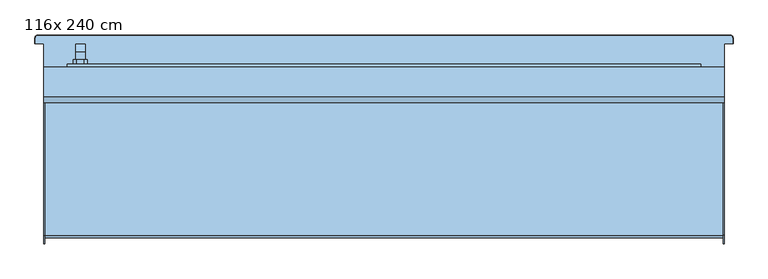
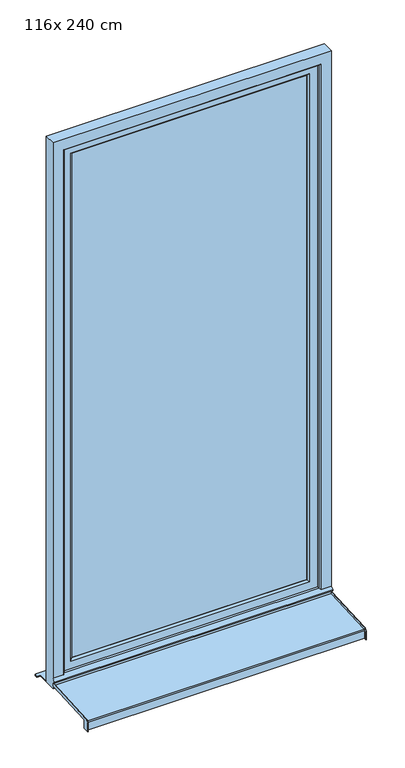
"""IFC4 building model written with IfcOpenShell, lengths in millimetres: window geometry, Fenêtre type 1 : 116x 240 cm."""

import ifcopenshell
import ifcopenshell.guid

model = None  # the IFC model being written
_history = None  # IfcOwnerHistory: only IFC2X3 demands one
_inside = {}  # id of a spatial element -> (the spatial element, [elements in it])
_under = {}  # id of a project, library or spatial element -> (it, [spatial elements below it])
_declared = {}  # id of a project -> (the project, [libraries it declares])
_typed = {}  # id of a type object -> (the type object, [elements of that type])
_made_of = {}  # id of a material, layer set ... -> (it, [elements and type objects made of it])


def new_model(schema):
    """Start an empty IFC model of exactly this schema.

    Asked for "IFC4X3", IfcOpenShell would pick the latest addendum, in which some entities
    have other attributes; the version numbers below select the first issue.
    IFC2X3 requires an IfcOwnerHistory on every rooted entity: one is made here for all.
    """
    global model, _history
    if schema == "IFC4X3":
        model = ifcopenshell.file(schema_version=(4, 3, 0, 0))
    else:
        model = ifcopenshell.file(schema=schema)
    _inside.clear()
    _under.clear()
    _declared.clear()
    _typed.clear()
    _made_of.clear()
    _history = None
    if model.schema == "IFC2X3":
        org = make("IfcOrganization", Name="unknown")
        user = make(
            "IfcPersonAndOrganization",
            ThePerson=make("IfcPerson", FamilyName="unknown"),
            TheOrganization=org,
        )
        app = make(
            "IfcApplication",
            ApplicationDeveloper=org,
            Version="unknown",
            ApplicationFullName="unknown",
            ApplicationIdentifier="unknown",
        )
        _history = make(
            "IfcOwnerHistory",
            OwningUser=user,
            OwningApplication=app,
            ChangeAction="ADDED",
            CreationDate=0,
        )
    return model


def make(cls, **values):
    """One entity of the class cls with the attributes given. An attribute that is None is left unset."""
    return model.create_entity(
        cls, **{name: value for name, value in values.items() if value is not None}
    )


def rooted(cls, **values):
    """An entity with a GlobalId (a new one), such as an element, a storey or a relation."""
    return make(cls, GlobalId=ifcopenshell.guid.new(), OwnerHistory=_history, **values)


def si_unit(unit_type, name, prefix=None):
    """IfcSIUnit, for example si_unit("LENGTHUNIT", "METRE", prefix="MILLI")."""
    return make("IfcSIUnit", UnitType=unit_type, Prefix=prefix, Name=name)


def assignment(units):
    """IfcUnitAssignment: the units of a project."""
    return None if units is None else make("IfcUnitAssignment", Units=units)


def point(xyz):
    """IfcCartesianPoint."""
    return None if xyz is None else make("IfcCartesianPoint", Coordinates=xyz)


def direction(xyz):
    """IfcDirection."""
    return None if xyz is None else make("IfcDirection", DirectionRatios=xyz)


def frame(location, z_axis=None, x_axis=None):
    """IfcAxis2Placement3D, a coordinate frame: its origin and axes. An axis left out is left unset."""
    return make(
        "IfcAxis2Placement3D",
        Location=point(location),
        Axis=direction(z_axis),
        RefDirection=direction(x_axis),
    )


def origin():
    """The frame at (0, 0, 0) with its axes left unset."""
    return frame((0.0, 0.0, 0.0))


def place(relative_to, where):
    """IfcLocalPlacement: puts the frame where relative to a parent placement (None: the world)."""
    return make(
        "IfcLocalPlacement", PlacementRelTo=relative_to, RelativePlacement=where
    )


def context(
    kind, dimensions, precision=None, world=None, true_north=None, identifier=None
):
    """IfcGeometricRepresentationContext, for example the 3D "Model" context."""
    return make(
        "IfcGeometricRepresentationContext",
        ContextIdentifier=identifier,
        ContextType=kind,
        CoordinateSpaceDimension=dimensions,
        Precision=precision,
        WorldCoordinateSystem=world,
        TrueNorth=true_north,
    )


def project(units=None, contexts=None):
    """IfcProject with its units and contexts."""
    return rooted(
        "IfcProject",
        Name="project",
        RepresentationContexts=contexts,
        UnitsInContext=assignment(units),
    )


def spatial(cls, under=None, at=None, **own):
    """A site, building, storey or space (cls), placed at a placement, below another one or the project."""
    s = rooted(cls, ObjectPlacement=at, **own)
    if under is not None:
        _under.setdefault(under.id(), (under, []))[1].append(s)
    return s


def polyline(points):
    """IfcPolyline through the points."""
    return make("IfcPolyline", Points=[point(p) for p in points])


def circle_curve(where, radius):
    """IfcCircle in the frame where."""
    return make("IfcCircle", Position=where, Radius=radius)


def outline(outer, holes=None, kind="AREA"):
    """IfcArbitraryClosedProfileDef: a profile drawn as a closed curve; with holes, ...WithVoids."""
    if holes is None:
        return make("IfcArbitraryClosedProfileDef", ProfileType=kind, OuterCurve=outer)
    return make(
        "IfcArbitraryProfileDefWithVoids",
        ProfileType=kind,
        OuterCurve=outer,
        InnerCurves=holes,
    )


def extrude(swept, where, along, depth):
    """IfcExtrudedAreaSolid: the profile swept, set in the frame where, extruded along a direction by depth."""
    return make(
        "IfcExtrudedAreaSolid",
        SweptArea=swept,
        Position=where,
        ExtrudedDirection=direction(along),
        Depth=depth,
    )


def faces_of(points, faces, orient=None, outer=None):
    """IfcFace entities. A face is a list of loops; a loop is a list of indices into points, from 0.

    orient and outer hold one flag for each loop. By default every Orientation is true, the
    first loop of a face is its IfcFaceOuterBound and the others are IfcFaceBound.
    """
    made = []
    for i, loops in enumerate(faces):
        bounds = []
        for j, loop in enumerate(loops):
            is_outer = j == 0 if outer is None else outer[i][j]
            bounds.append(
                make(
                    "IfcFaceOuterBound" if is_outer else "IfcFaceBound",
                    Bound=make("IfcPolyLoop", Polygon=[points[k] for k in loop]),
                    Orientation=True if orient is None else orient[i][j],
                )
            )
        made.append(make("IfcFace", Bounds=bounds))
    return made


def faceted_brep(points, faces, orient=None, outer=None, voids=None):
    """IfcFacetedBrep: a solid bounded by flat faces; with voids (closed shells), ...WithVoids."""
    shared = [point(p) for p in points]
    hull = make("IfcClosedShell", CfsFaces=faces_of(shared, faces, orient, outer))
    if voids is None:
        return make("IfcFacetedBrep", Outer=hull)
    return make(
        "IfcFacetedBrepWithVoids",
        Outer=hull,
        Voids=[
            make(cls, CfsFaces=faces_of(shared, fs, o, b)) for cls, fs, o, b in voids
        ],
    )


def shape(context_of_items, identifier, shape_type, items):
    """IfcShapeRepresentation: the items that make up one representation, for example the "Body"."""
    return make(
        "IfcShapeRepresentation",
        ContextOfItems=context_of_items,
        RepresentationIdentifier=identifier,
        RepresentationType=shape_type,
        Items=items,
    )


def source(mapping_origin, context_of_items, identifier, shape_type, items):
    """IfcRepresentationMap: a shape defined once, which mapped items show again and again."""
    return make(
        "IfcRepresentationMap",
        MappingOrigin=mapping_origin,
        MappedRepresentation=shape(context_of_items, identifier, shape_type, items),
    )


def transform(
    local_origin,
    x_axis=None,
    y_axis=None,
    z_axis=None,
    scale=None,
    scale2=None,
    scale3=None,
    uniform=True,
):
    """IfcCartesianTransformationOperator3D, or its non-uniform kind. x_axis, y_axis, z_axis: its Axis1, 2, 3."""
    if uniform:
        return make(
            "IfcCartesianTransformationOperator3D",
            Axis1=direction(x_axis),
            Axis2=direction(y_axis),
            LocalOrigin=point(local_origin),
            Scale=scale,
            Axis3=direction(z_axis),
        )
    return make(
        "IfcCartesianTransformationOperator3DnonUniform",
        Axis1=direction(x_axis),
        Axis2=direction(y_axis),
        LocalOrigin=point(local_origin),
        Scale=scale,
        Axis3=direction(z_axis),
        Scale2=scale2,
        Scale3=scale3,
    )


def mapped(mapping_source, mapping_target):
    """IfcMappedItem: shows the shape of a source again, moved by a transform."""
    return make(
        "IfcMappedItem", MappingSource=mapping_source, MappingTarget=mapping_target
    )


def made_of(thing, what):
    """Note that an element or type object is made of a material, layer set ...; save() writes the relation."""
    if what is not None:
        _made_of.setdefault(what.id(), (what, []))[1].append(thing)
    return thing


def element(
    cls,
    number,
    at=None,
    inside=None,
    cuts=None,
    type_object=None,
    material=None,
    context=None,
    identifier="Body",
    shape_type=None,
    held_by="IfcProductDefinitionShape",
    body=None,
    shapes=None,
    **own,
):
    """One element of the class cls, such as IfcWall. Its Tag is "e" and its number.

    at: its placement. inside: the storey or other place that contains it. cuts: it is an
    opening in that element (IfcRelVoidsElement). A single representation is given by context,
    identifier, shape_type and body (its items); several are given by shapes. held_by: the class
    of the entity that holds the representations. save() writes the other relations.
    """
    e = rooted(cls, Tag="e%d" % number, ObjectPlacement=at, **own)
    if body is not None:
        shapes = [shape(context, identifier, shape_type, body)]
    if shapes is not None:
        e.Representation = make(held_by, Representations=shapes)
    if inside is not None:
        _inside.setdefault(inside.id(), (inside, []))[1].append(e)
    if cuts is not None:
        rooted(
            "IfcRelVoidsElement", RelatingBuildingElement=cuts, RelatedOpeningElement=e
        )
    if type_object is not None:
        _typed.setdefault(type_object.id(), (type_object, []))[1].append(e)
    return made_of(e, material)


def aggregate(whole, parts):
    """IfcRelAggregates: a whole, such as a stair, and the parts it consists of."""
    return rooted("IfcRelAggregates", RelatingObject=whole, RelatedObjects=parts)


def save(model, path):
    """Write the relations noted so far, then the file.

    IfcRelAggregates (storeys below a building ...), IfcRelContainedInSpatialStructure (elements
    in a storey), IfcRelDefinesByType, IfcRelAssociatesMaterial and IfcRelDeclares: one each for
    every whole, place, type object, material and project.
    """
    for whole, parts in _under.values():
        aggregate(whole, parts)
    for where, things in _inside.values():
        rooted(
            "IfcRelContainedInSpatialStructure",
            RelatedElements=things,
            RelatingStructure=where,
        )
    for kind, things in _typed.values():
        rooted("IfcRelDefinesByType", RelatedObjects=things, RelatingType=kind)
    for what, things in _made_of.values():
        rooted("IfcRelAssociatesMaterial", RelatedObjects=things, RelatingMaterial=what)
    for by, libraries in _declared.values():
        rooted("IfcRelDeclares", RelatingContext=by, RelatedDefinitions=libraries)
    model.write(path)


def plane_surface(at):
    """IfcPlane: the flat surface through the origin of the frame at, square to its z axis."""
    return make("IfcPlane", Position=at)


def cylinder_surface(at, radius):
    """IfcCylindricalSurface: all points at the distance radius from the z axis of the frame at."""
    return make("IfcCylindricalSurface", Position=at, Radius=radius)


def revolved_surface(curve, axis_point, axis_direction):
    """IfcSurfaceOfRevolution: the curve turned about the line through axis_point along axis_direction."""
    return make(
        "IfcSurfaceOfRevolution",
        SweptCurve=make("IfcArbitraryOpenProfileDef", ProfileType="CURVE", Curve=curve),
        AxisPosition=make("IfcAxis1Placement", Location=point(axis_point), Axis=direction(axis_direction)),
    )


def advanced_brep(points, edges, surfaces, faces):
    """IfcAdvancedBrep: a solid bounded by faces that lie on surfaces and meet in shared edges.

    An edge is (start, end): straight between two places in points (the first is 0);
    or (start, end, curve); or (start, end, curve, False) where it runs against its curve.
    A face is (place in surfaces, loops), or (place, loops, False) where it looks against
    its surface's normal. A loop lists edges by number (the first is 1), with a minus sign
    where the edge is run from its end to its start. The first loop is the outer one.
    """
    corners = [point(p) for p in points]
    vertices = [make("IfcVertexPoint", VertexGeometry=c) for c in corners]
    made = []
    for start, end, *more in edges:
        made.append(
            make(
                "IfcEdgeCurve",
                EdgeStart=vertices[start],
                EdgeEnd=vertices[end],
                EdgeGeometry=more[0] if more else make("IfcPolyline", Points=[corners[start], corners[end]]),
                SameSense=more[1] if len(more) > 1 else True,
            )
        )
    hull = []
    for where, loops, *sense in faces:
        bounds = []
        for j, loop in enumerate(loops):
            ring = [make("IfcOrientedEdge", EdgeElement=made[abs(k) - 1], Orientation=k > 0) for k in loop]
            bounds.append(
                make(
                    "IfcFaceOuterBound" if j == 0 else "IfcFaceBound",
                    Bound=make("IfcEdgeLoop", EdgeList=ring),
                    Orientation=True,
                )
            )
        hull.append(make("IfcAdvancedFace", Bounds=bounds, FaceSurface=surfaces[where], SameSense=sense[0] if sense else True))
    return make("IfcAdvancedBrep", Outer=make("IfcClosedShell", CfsFaces=hull))


def window_116x_240_cm_9ea8152d(model_context):
    return source(origin(), model_context, "Body", "SolidModel", [
        faceted_brep([(-525.5, 123.0, 1306.0), (-525.5, 123.0, 1294.0), (-509.5, 123.0, 1294.0), (-509.5, 123.0, 1306.0), (-509.5, 135.4852814, 1306.0), (-525.5, 135.4852814, 1306.0), (-509.5, 130.5147186, 1294.0), (-509.5, 137.0, 1287.5147186), (-509.5, 137.0, 1287.2282668), (-509.5, 139.7580139, 1208.5355339), (-509.5, 149.0, 1208.5355339), (-509.5, 149.0, 1292.4852814), (-525.5, 130.5147186, 1294.0), (-525.5, 149.0, 1292.4852814), (-525.5, 149.0, 1208.5355339), (-525.5, 139.7580139, 1208.5355339), (-525.5, 137.0099909, 1287.2286157), (-525.5, 137.0, 1287.5147186), (-513.0355339, 149.0, 1205.0), (-513.0355339, 139.8814775, 1205.0), (-521.9644661, 139.8814775, 1205.0), (-521.9644661, 149.0, 1205.0)], [[[0, 1, 2, 3]], [[3, 4, 5, 0]], [[2, 6, 7, 8, 9, 10, 11, 4, 3]], [[1, 12, 6, 2]], [[0, 5, 13, 14, 15, 16, 17, 12, 1]], [[4, 11, 13, 5]], [[6, 12, 17, 7]], [[18, 19, 20, 21]], [[11, 10, 18, 21, 14, 13]], [[17, 16, 8, 7]], [[16, 15, 20, 19, 9, 8]], [[9, 19, 18, 10]], [[14, 21, 20, 15]]]),
        extrude(outline(polyline([(1330.0, -524.5), (1325.0, -529.5), (1275.0, -529.5), (1270.0, -524.5), (1270.0, -510.5), (1275.0, -505.5), (1325.0, -505.5), (1330.0, -510.5), (1330.0, -524.5)])), frame((0.0, 115.0, 0.0), z_axis=(0.0, 1.0, 0.0), x_axis=(0.0, 0.0, 1.0)), (0.0, 0.0, 1.0), 8.0),
        advanced_brep(
        [(-580.0, -165.0, 762.0), (-580.0, -191.5, 762.0), (-580.0, -191.5, 795.1063906), (-580.0, -177.2850393, 810.0858337), (-580.0, 60.0, 822.5214156), (-580.0, 60.0, 811.0056336), (-580.0, -165.0, 799.2138833), (580.0, -165.0, 799.2138833), (580.0, 60.0, 811.0056336), (580.0, 60.0, 822.5214156), (580.0, -177.2850393, 810.0858337), (580.0, -191.5, 795.1063906), (580.0, -191.5, 762.0), (580.0, -165.0, 762.0), (-578.0, 60.0, 822.5214156), (-578.0, 60.0, 812.5076922), (578.0, 60.0, 812.5076922), (578.0, 60.0, 822.5214156), (-578.0, -176.7616798, 800.0995383), (578.0, -176.7616798, 800.0995383), (578.0, -181.5, 795.1063906), (-578.0, -181.5, 795.1063906), (-578.0, -181.5, 762.0), (578.0, -181.5, 762.0), (-578.0, -180.0, 762.0), (578.0, -180.0, 762.0), (578.0, -165.0, 762.0), (578.0, -191.5, 762.0), (-578.0, -191.5, 762.0), (-578.0, -165.0, 762.0), (-578.0, -170.0, 772.0), (578.0, -170.0, 772.0), (-578.0, -171.0606602, 773.0606602), (578.0, -171.0606602, 773.0606602), (-578.0, -180.0, 764.1213203), (578.0, -180.0, 764.1213203), (-578.0, -180.0, 795.0728058), (578.0, -180.0, 795.0728058), (-578.0, -165.0, 799.2138833), (578.0, -165.0, 799.2138833), (578.0, -176.649637, 798.6033517), (-578.0, -176.649637, 798.6033517), (578.0, -191.5, 795.1063906), (578.0, -177.2850393, 810.0858337), (-578.0, -177.2850393, 810.0858337), (-578.0, -191.5, 795.1063906)],
        [
            (0, 1),
            (1, 2),
            (2, 3, circle_curve(frame((-580.0, -176.5, 795.1063906), z_axis=(-1.0, 0.0, 0.0), x_axis=(0.0, -0.05233595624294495, 0.9986295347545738)), 15.0)),
            (3, 4),
            (4, 5),
            (5, 6),
            (6, 0),
            (7, 8),
            (8, 9),
            (9, 10),
            (10, 11, circle_curve(frame((580.0, -176.5, 795.1063906), z_axis=(1.0, 0.0, 0.0), x_axis=(0.0, -1.0, 0.0)), 15.0)),
            (11, 12),
            (12, 13),
            (13, 7),
            (14, 15),
            (15, 16),
            (16, 17),
            (17, 9),
            (8, 5),
            (4, 14),
            (18, 19),
            (19, 16),
            (15, 18),
            (20, 21),
            (21, 22),
            (22, 23),
            (23, 20),
            (24, 25),
            (25, 26),
            (26, 13),
            (12, 27),
            (27, 23),
            (22, 28),
            (28, 1),
            (0, 29),
            (29, 24),
            (30, 31),
            (31, 25),
            (24, 30),
            (32, 33),
            (33, 31),
            (30, 32),
            (34, 35),
            (35, 33),
            (32, 34),
            (36, 37),
            (37, 35),
            (34, 36),
            (38, 6),
            (7, 39),
            (39, 40),
            (40, 41),
            (41, 38),
            (41, 36, circle_curve(frame((-578.0, -176.4646089, 795.0728058), z_axis=(1.0, 0.0, 0.0), x_axis=(0.0, 1.0, 0.0)), 3.5353911)),
            (29, 38),
            (37, 40, circle_curve(frame((578.0, -176.4646089, 795.0728058), z_axis=(-1.0, 0.0, 0.0), x_axis=(0.0, 1.0, 0.0)), 3.5353911)),
            (39, 26),
            (18, 21, circle_curve(frame((-578.0, -176.5, 795.1063906), z_axis=(1.0, 0.0, 0.0), x_axis=(0.0, 1.0, 0.0)), 5.0)),
            (20, 19, circle_curve(frame((578.0, -176.5, 795.1063906), z_axis=(-1.0, 0.0, 0.0), x_axis=(0.0, 1.0, 0.0)), 5.0)),
            (27, 42),
            (42, 43, circle_curve(frame((578.0, -176.5, 795.1063906), z_axis=(-1.0, 0.0, 0.0), x_axis=(0.0, -1.0, 0.0)), 15.0)),
            (43, 17),
            (11, 42),
            (10, 43),
            (14, 44),
            (44, 45, circle_curve(frame((-578.0, -176.5, 795.1063906), z_axis=(1.0, 0.0, 0.0), x_axis=(0.0, -0.05233595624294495, 0.9986295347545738)), 15.0)),
            (45, 28),
            (3, 44),
            (2, 45),
        ],
        [
            plane_surface(frame((-580.0, 60.0, 811.0056336), z_axis=(-1.0, 0.0, 0.0), x_axis=(0.0, 0.0, 1.0))),
            plane_surface(frame((580.0, 60.0, 811.0056336), z_axis=(1.0, 0.0, 0.0), x_axis=(0.0, 0.0, -1.0))),
            plane_surface(frame((-580.0, 60.0, 811.0056336), z_axis=(0.0, 1.0, 0.0), x_axis=(1.0, 0.0, 0.0))),
            plane_surface(frame((-580.0, 60.0, 812.5076922), z_axis=(0.0, -0.05233595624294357, 0.9986295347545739), x_axis=(1.0, 0.0, 0.0))),
            plane_surface(frame((-580.0, -181.5, 795.1063906), z_axis=(0.0, -1.0, 0.0), x_axis=(1.0, 0.0, 0.0))),
            plane_surface(frame((-580.0, -181.5, 762.0), z_axis=(0.0, 0.0, -1.0), x_axis=(1.0, 0.0, 0.0))),
            plane_surface(frame((-580.0, -180.0, 762.0), z_axis=(0.0, 0.7071067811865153, -0.7071067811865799), x_axis=(1.0, 0.0, 0.0))),
            plane_surface(frame((-580.0, -170.0, 772.0), z_axis=(0.0, 0.7071067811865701, 0.707106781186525), x_axis=(1.0, 0.0, 0.0))),
            plane_surface(frame((-580.0, -171.0606602, 773.0606602), z_axis=(0.0, -0.7071067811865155, 0.7071067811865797), x_axis=(1.0, 0.0, 0.0))),
            plane_surface(frame((-580.0, -180.0, 764.1213203), z_axis=(0.0, 1.0, 0.0), x_axis=(1.0, 0.0, 0.0))),
            plane_surface(frame((-580.0, -176.649637, 798.6033517), z_axis=(0.0, 0.052335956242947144, -0.9986295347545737), x_axis=(1.0, 0.0, 0.0))),
            plane_surface(frame((-578.0, -180.0, 798.4277666), z_axis=(1.0, 0.0, 0.0), x_axis=(0.0, 0.9986295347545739, 0.052335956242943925))),
            plane_surface(frame((-580.0, -165.0, 762.0), z_axis=(0.0, 1.0, 0.0), x_axis=(1.0, 0.0, 0.0))),
            plane_surface(frame((578.0, -180.0, 798.4277666), z_axis=(-1.0, 0.0, 0.0), x_axis=(0.0, 0.0, -1.0))),
            plane_surface(frame((578.0, -165.0, 762.0), z_axis=(0.0, 1.0, 0.0), x_axis=(1.0, 0.0, 0.0))),
            cylinder_surface(frame((580.0, -176.5, 795.1063906), z_axis=(-1.0, 0.0, 0.0), x_axis=(0.0, 1.0, 0.0)), 5.0),
            revolved_surface(polyline([(578.0, -172.9292178, 795.0728058), (-578.0, -172.9292178, 795.0728058)]), (580.0, -176.4646089, 795.0728058), (1.0, 0.0, 0.0)),
            plane_surface(frame((578.0, -181.5, 762.0), z_axis=(-1.0, 0.0, 0.0), x_axis=(0.0, 0.0, 1.0))),
            plane_surface(frame((578.0, -191.5, 762.0), z_axis=(0.0, -1.0, 0.0), x_axis=(0.0, 0.0, 1.0))),
            cylinder_surface(frame((580.0, -176.5, 795.1063906), z_axis=(1.0, 0.0, 0.0), x_axis=(0.0, -1.0, 0.0)), 15.0),
            plane_surface(frame((578.0, -177.2850393, 810.0858337), z_axis=(0.0, -0.05233595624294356, 0.9986295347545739), x_axis=(0.0, 0.9986295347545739, 0.05233595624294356))),
            plane_surface(frame((-578.0, 60.0, 822.5214156), z_axis=(1.0, 0.0, 0.0), x_axis=(0.0, 0.9986295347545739, 0.05233595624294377))),
            plane_surface(frame((-580.0, 60.0, 822.5214156), z_axis=(0.0, -0.05233595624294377, 0.9986295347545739), x_axis=(1.0, 0.0, 0.0))),
            cylinder_surface(frame((-580.0, -176.5, 795.1063906), z_axis=(-1.0, 0.0, 0.0), x_axis=(0.0, -0.05233595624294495, 0.9986295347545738)), 15.0),
            plane_surface(frame((-578.0, -191.5, 795.1063906), z_axis=(0.0, -1.0, 0.0), x_axis=(0.0, 0.0, -1.0))),
        ],
        [
            (0, [[1, 2, 3, 4, 5, 6, 7]]),
            (1, [[8, 9, 10, 11, 12, 13, 14]]),
            (2, [[15, 16, 17, 18, -9, 19, -5, 20]]),
            (3, [[21, 22, -16, 23]]),
            (4, [[24, 25, 26, 27]]),
            (5, [[28, 29, 30, -13, 31, 32, -26, 33, 34, -1, 35, 36]]),
            (6, [[37, 38, -28, 39]]),
            (7, [[40, 41, -37, 42]]),
            (8, [[43, 44, -40, 45]]),
            (9, [[46, 47, -43, 48]]),
            (10, [[49, -6, -19, -8, 50, 51, 52, 53]]),
            (11, [[-53, 54, -48, -45, -42, -39, -36, 55]]),
            (12, [[-35, -7, -49, -55]]),
            (13, [[-38, -41, -44, -47, 56, -51, 57, -29]]),
            (14, [[-50, -14, -30, -57]]),
            (15, [[-21, 58, -24, 59]]),
            (16, [[-52, -56, -46, -54]]),
            (17, [[60, 61, 62, -17, -22, -59, -27, -32]]),
            (18, [[-12, 63, -60, -31]]),
            (19, [[64, -61, -63, -11]]),
            (20, [[-10, -18, -62, -64]]),
            (21, [[65, 66, 67, -33, -25, -58, -23, -15]]),
            (22, [[68, -65, -20, -4]]),
            (23, [[69, -66, -68, -3]]),
            (24, [[-34, -67, -69, -2]]),
        ],
    ),
        extrude(outline(polyline([(-490.0, 105.0), (490.0, 105.0), (490.0, 85.0), (-490.0, 85.0), (-490.0, 105.0)])), frame((0.0, 0.0, 890.0), z_axis=(0.0, 0.0, 1.0), x_axis=(1.0, 0.0, 0.0)), (0.0, 0.0, 1.0), 2220.0),
        faceted_brep([(-540.0, 115.0, 840.0), (540.0, 115.0, 840.0), (540.0, 75.0, 840.0), (-540.0, 75.0, 840.0), (540.0, 115.0, 3160.0), (540.0, 75.0, 3160.0), (-540.0, 75.0, 3160.0), (497.0710678, 75.0, 3117.0710678), (497.0710678, 75.0, 882.9289322), (-497.0710678, 75.0, 882.9289322), (-497.0710678, 75.0, 3117.0710678), (-540.0, 115.0, 3160.0), (497.0710678, 115.0, 882.9289322), (497.0710678, 115.0, 3117.0710678), (-497.0710678, 115.0, 3117.0710678), (-497.0710678, 115.0, 882.9289322), (-490.0, 107.9289322, 890.0), (490.0, 107.9289322, 890.0), (490.0, 107.9289322, 3110.0), (490.0, 82.0710678, 890.0), (490.0, 82.0710678, 3110.0), (-490.0, 82.0710678, 890.0), (-490.0, 107.9289322, 3110.0), (-490.0, 82.0710678, 3110.0)], [[[0, 1, 2, 3]], [[1, 4, 5, 2]], [[2, 5, 6, 3], [7, 8, 9, 10]], [[4, 1, 0, 11], [12, 13, 14, 15]], [[16, 17, 12, 15]], [[17, 18, 13, 12]], [[19, 20, 18, 17]], [[9, 8, 19, 21]], [[8, 7, 20, 19]], [[11, 0, 3, 6]], [[22, 16, 15, 14]], [[23, 21, 16, 22]], [[10, 9, 21, 23]], [[21, 19, 17, 16]], [[4, 11, 6, 5]], [[18, 22, 14, 13]], [[7, 10, 23, 20]], [[20, 23, 22, 18]]]),
        faceted_brep([(580.0, 60.0, 800.0), (580.0, 110.0, 800.0), (580.0, 110.0, 3200.0), (580.0, 60.0, 3200.0), (580.0, 60.0, 845.0), (580.0, 50.0, 835.0), (580.0, 50.0, 830.0), (580.0, 60.0, 830.0), (-580.0, 60.0, 830.0), (-580.0, 60.0, 800.0), (-580.0, 50.0, 830.0), (-580.0, 50.0, 835.0), (535.0, 60.0, 845.0), (530.0, 65.0, 850.0), (-530.0, 65.0, 850.0), (-535.0, 60.0, 845.0), (-580.0, 60.0, 845.0), (-580.0, 60.0, 3200.0), (-535.0, 60.0, 3155.0), (535.0, 60.0, 3155.0), (-580.0, 110.0, 800.0), (-580.0, 110.0, 3200.0), (540.0, 110.0, 840.0), (540.0, 110.0, 3160.0), (-540.0, 110.0, 3160.0), (-540.0, 110.0, 840.0), (-540.0, 75.0, 840.0), (540.0, 75.0, 840.0), (-540.0, 75.0, 3160.0), (540.0, 75.0, 3160.0), (530.0, 75.0, 850.0), (530.0, 75.0, 3150.0), (-530.0, 75.0, 3150.0), (-530.0, 75.0, 850.0), (-530.0, 65.0, 3150.0), (530.0, 65.0, 3150.0)], [[[0, 1, 2, 3, 4, 5, 6, 7]], [[7, 8, 9, 0]], [[6, 10, 8, 7]], [[5, 11, 10, 6]], [[5, 4, 12, 13, 14, 15, 16, 11]], [[17, 16, 15, 18, 19, 12, 4, 3]], [[1, 20, 21, 2], [22, 23, 24, 25]], [[0, 9, 20, 1]], [[9, 8, 10, 11, 16, 17, 21, 20]], [[25, 26, 27, 22]], [[26, 25, 24, 28]], [[22, 27, 29, 23]], [[29, 27, 26, 28], [30, 31, 32, 33]], [[33, 14, 13, 30]], [[34, 14, 33, 32]], [[31, 30, 13, 35]], [[35, 13, 12, 19]], [[18, 15, 14, 34]], [[3, 2, 21, 17]], [[28, 24, 23, 29]], [[31, 35, 34, 32]], [[18, 34, 35, 19]]]),
        advanced_brep(
        [(580.0, 150.0, 805.0), (593.9971508, 150.0, 805.0), (593.9971508, 160.0, 805.0), (590.0, 163.9971508, 805.0), (-590.0, 163.9971508, 805.0), (-593.9971508, 160.0, 805.0), (-593.9971508, 150.0, 805.0), (-580.0, 150.0, 805.0), (-580.0, 110.0, 805.0), (580.0, 110.0, 805.0), (-580.0, 150.0, 800.0), (-593.9971508, 150.0, 800.0), (-593.9971508, 160.0, 800.0), (-590.0, 163.9971508, 800.0), (590.0, 163.9971508, 800.0), (593.9971508, 160.0, 800.0), (593.9971508, 150.0, 800.0), (580.0, 150.0, 800.0), (580.0, 110.0, 800.0), (-580.0, 110.0, 800.0), (-595.0, 160.0, 801.0028492), (-595.0, 150.0, 801.0028492), (-595.0, 150.0, 803.9971508), (-595.0, 160.0, 803.9971508), (595.0, 150.0, 801.0028492), (595.0, 150.0, 803.9971508), (595.0, 160.0, 801.0028492), (595.0, 160.0, 803.9971508), (590.0, 165.0, 801.0028492), (-590.0, 165.0, 801.0028492), (-590.0, 165.0, 803.9971508), (590.0, 165.0, 803.9971508)],
        [
            (0, 1),
            (1, 2),
            (2, 3, circle_curve(frame((590.0, 160.0, 805.0), z_axis=(0.0, 0.0, 1.0), x_axis=(0.0, 1.0, 0.0)), 3.9971508)),
            (3, 4),
            (4, 5, circle_curve(frame((-590.0, 160.0, 805.0), z_axis=(0.0, 0.0, 1.0), x_axis=(-1.0, 0.0, 0.0)), 3.9971508)),
            (5, 6),
            (6, 7),
            (7, 8),
            (8, 9),
            (9, 0),
            (10, 11),
            (11, 12),
            (12, 13, circle_curve(frame((-590.0, 160.0, 800.0), z_axis=(0.0, 0.0, -1.0), x_axis=(-1.0, 0.0, 0.0)), 3.9971508)),
            (13, 14),
            (14, 15, circle_curve(frame((590.0, 160.0, 800.0), z_axis=(0.0, 0.0, -1.0), x_axis=(0.0, 1.0, 0.0)), 3.9971508)),
            (15, 16),
            (16, 17),
            (17, 18),
            (18, 19),
            (19, 10),
            (20, 21),
            (21, 22),
            (22, 23),
            (23, 20),
            (6, 22),
            (21, 11),
            (10, 7),
            (19, 8),
            (18, 9),
            (17, 0),
            (16, 24),
            (24, 25),
            (25, 1),
            (24, 26),
            (26, 27),
            (27, 25),
            (28, 29),
            (29, 30),
            (30, 31),
            (31, 28),
            (31, 27, circle_curve(frame((590.0, 160.0, 803.9971508), z_axis=(0.0, 0.0, -1.0), x_axis=(0.0, 1.0, 0.0)), 5.0)),
            (26, 28, circle_curve(frame((590.0, 160.0, 801.0028492), z_axis=(0.0, 0.0, 1.0), x_axis=(0.0, 1.0, 0.0)), 5.0)),
            (23, 30, circle_curve(frame((-590.0, 160.0, 803.9971508), z_axis=(0.0, 0.0, -1.0), x_axis=(0.0, 1.0, 0.0)), 5.0)),
            (29, 20, circle_curve(frame((-590.0, 160.0, 801.0028492), z_axis=(0.0, 0.0, 1.0), x_axis=(0.0, 1.0, 0.0)), 5.0)),
            (5, 23),
            (20, 12),
            (4, 30),
            (29, 13),
            (3, 31),
            (28, 14),
            (2, 27),
            (26, 15),
        ],
        [
            plane_surface(frame((-595.0, 150.0, 805.0), z_axis=(0.0, 0.0, 1.0), x_axis=(0.0, 1.0, 0.0))),
            plane_surface(frame((-595.0, 150.0, 800.0), z_axis=(0.0, 0.0, -1.0), x_axis=(0.0, -1.0, 0.0))),
            plane_surface(frame((-595.0, 160.0, 800.0), z_axis=(-1.0, 0.0, 0.0), x_axis=(0.0, 0.0, 1.0))),
            plane_surface(frame((-595.0, 150.0, 800.0), z_axis=(0.0, -1.0, 0.0), x_axis=(0.0, 0.0, 1.0))),
            plane_surface(frame((-580.0, 150.0, 800.0), z_axis=(-1.0, 0.0, 0.0), x_axis=(0.0, 0.0, 1.0))),
            plane_surface(frame((-580.0, 110.0, 800.0), z_axis=(0.0, -1.0, 0.0), x_axis=(0.0, 0.0, 1.0))),
            plane_surface(frame((580.0, 110.0, 800.0), z_axis=(1.0, 0.0, 0.0), x_axis=(0.0, 0.0, 1.0))),
            plane_surface(frame((580.0, 150.0, 800.0), z_axis=(0.0, -1.0, 0.0), x_axis=(0.0, 0.0, 1.0))),
            plane_surface(frame((595.0, 150.0, 800.0), z_axis=(1.0, 0.0, 0.0), x_axis=(0.0, 0.0, 1.0))),
            plane_surface(frame((590.0, 165.0, 800.0), z_axis=(0.0, 1.0, 0.0), x_axis=(0.0, 0.0, 1.0))),
            cylinder_surface(frame((590.0, 160.0, 805.0), z_axis=(0.0, 0.0, -1.0), x_axis=(0.0, 1.0, 0.0)), 5.0),
            cylinder_surface(frame((-590.0, 160.0, 805.0), z_axis=(0.0, 0.0, -1.0), x_axis=(0.0, 1.0, 0.0)), 5.0),
            plane_surface(frame((-593.9971508, 150.0, 805.0), z_axis=(-0.7071067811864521, 0.0, 0.707106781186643), x_axis=(0.0, 1.0, 0.0))),
            plane_surface(frame((-595.0, 150.0, 801.0028492), z_axis=(-0.7071067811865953, 0.0, -0.7071067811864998), x_axis=(0.0, 1.0, 0.0))),
            revolved_surface(polyline([(-595.0, 160.0, 803.9971508), (-593.9971508, 160.0, 805.0)]), (-590.0, 160.0, 805.0), (0.0, 0.0, 1.0)),
            revolved_surface(polyline([(-593.9971508, 160.0, 800.0), (-595.0, 160.0, 801.0028492)]), (-590.0, 160.0, 805.0), (0.0, 0.0, 1.0)),
            plane_surface(frame((-590.0, 163.9971508, 805.0), z_axis=(0.0, 0.7071067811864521, 0.707106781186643), x_axis=(1.0, 0.0, 0.0))),
            plane_surface(frame((-590.0, 165.0, 801.0028492), z_axis=(0.0, 0.7071067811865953, -0.7071067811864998), x_axis=(1.0, 0.0, 0.0))),
            revolved_surface(polyline([(590.0, 165.0, 803.9971508), (590.0, 163.9971508, 805.0)]), (590.0, 160.0, 805.0), (0.0, 0.0, 1.0)),
            revolved_surface(polyline([(590.0, 163.9971508, 800.0), (590.0, 165.0, 801.0028492)]), (590.0, 160.0, 805.0), (0.0, 0.0, 1.0)),
            plane_surface(frame((593.9971508, 160.0, 805.0), z_axis=(0.7071067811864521, 0.0, 0.707106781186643), x_axis=(0.0, -1.0, 0.0))),
            plane_surface(frame((595.0, 160.0, 801.0028492), z_axis=(0.7071067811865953, 0.0, -0.7071067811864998), x_axis=(0.0, -1.0, 0.0))),
        ],
        [
            (0, [[1, 2, 3, 4, 5, 6, 7, 8, 9, 10]]),
            (1, [[11, 12, 13, 14, 15, 16, 17, 18, 19, 20]]),
            (2, [[21, 22, 23, 24]]),
            (3, [[-7, 25, -22, 26, -11, 27]]),
            (4, [[-27, -20, 28, -8]]),
            (5, [[-28, -19, 29, -9]]),
            (6, [[-29, -18, 30, -10]]),
            (7, [[-17, 31, 32, 33, -1, -30]]),
            (8, [[34, 35, 36, -32]]),
            (9, [[37, 38, 39, 40]]),
            (10, [[41, -35, 42, -40]]),
            (11, [[43, -38, 44, -24]]),
            (12, [[-23, -25, -6, 45]]),
            (13, [[-12, -26, -21, 46]]),
            (14, [[-5, 47, -43, -45]]),
            (15, [[-44, 48, -13, -46]]),
            (16, [[-4, 49, -39, -47]]),
            (17, [[-37, 50, -14, -48]]),
            (18, [[-3, 51, -41, -49]]),
            (19, [[-42, 52, -15, -50]]),
            (20, [[-2, -33, -36, -51]]),
            (21, [[-34, -31, -16, -52]]),
        ],
    ),
    ])


if __name__ == "__main__":
    model = new_model("IFC4")
    model_context = context("Model", 3, world=origin())
    ifc_project = project(units=[si_unit("LENGTHUNIT", "METRE", prefix="MILLI")], contexts=[model_context])
    site = spatial("IfcSite", under=ifc_project)
    building = spatial("IfcBuilding", under=site)
    placement = place(None, origin())
    window_116x_240_cm_shape = window_116x_240_cm_9ea8152d(model_context)
    element("IfcWindow", 1, ObjectType="Fenêtre type 1 : 116x 240 cm", at=placement, inside=building, context=model_context, shape_type="MappedRepresentation", body=[
        mapped(window_116x_240_cm_shape, transform((0.0, 0.0, 0.0), x_axis=(1.0, 0.0, 0.0), y_axis=(0.0, 1.0, 0.0), z_axis=(0.0, 0.0, 1.0))),
    ])
    save(model, "model.ifc")
